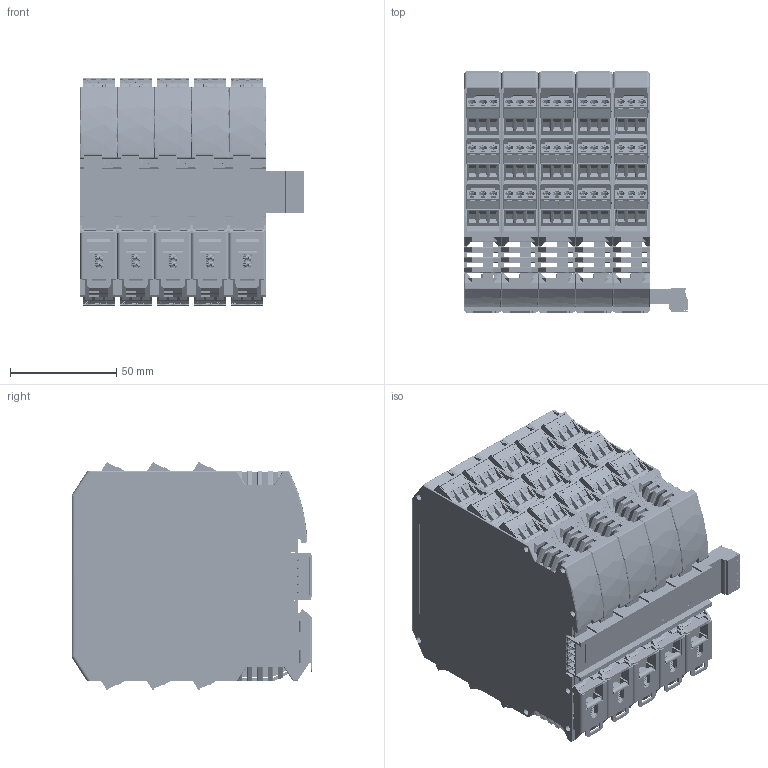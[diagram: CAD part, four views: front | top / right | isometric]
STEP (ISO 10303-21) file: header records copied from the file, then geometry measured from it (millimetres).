
FILE_DESCRIPTION(('STEP AP203'), '1');
FILE_NAME('Êîíòðîëëåð îòîïëåíèÿ è ÃÂÑ äëÿ ÈÒÏ ñ ìîäóëÿìè_ ÊÎÍÒÓÐ-À22 KIT', '2025-02-12T13:06:43', ('ÝËÕÀÐÒ'), ('ÝËÕÀÐÒ'), 'ASCON STEP Converter 1.6', 'ASCON Math Kernel', '');
FILE_SCHEMA(('CONFIG_CONTROL_DESIGN'));
Length unit declared in the file: millimetre
Products named in the file (3): ﾊﾎﾍﾒﾓﾐ-ﾀ22 KIT
Assembly tree (5 placements, depth 2):
  ﾊﾎﾍﾒﾓﾐ-ﾀ22 KIT
    (unnamed)
    (unnamed)  x4
Bounding box: 105.6 x 113.65 x 107.7 mm (x, y, z)
Volume: 353248.7 mm3; surface area: 542981.7 mm2
Topology: 83 solids, 117 shells, 42749 faces, 117446 edges, 75801 vertices
Faces by surface type: plane 29474, cylinder 7421, extrusion 2467, bspline 1326, torus 1005, sphere 722, cone 334
Full cylindrical faces by diameter (mm): 0.5 x1, 0.6 x2, 1 x4, 1.35 x10, 1.4 x30, 1.5 x100, 1.6 x50, 1.9 x5, 2.2 x60, 2.5 x90, 2.8 x87, 2.87 x5, 2.9 x80, 2.95 x10, 3 x80, 3.3 x87, 3.85 x174
Entity records: 700033 total; most frequent: CARTESIAN_POINT 143158, ORIENTED_EDGE 91438, DIRECTION 78899, EDGE_CURVE 45719, VECTOR 34863, LINE 33878, VERTEX_POINT 30000, AXIS2_PLACEMENT_3D 22018
